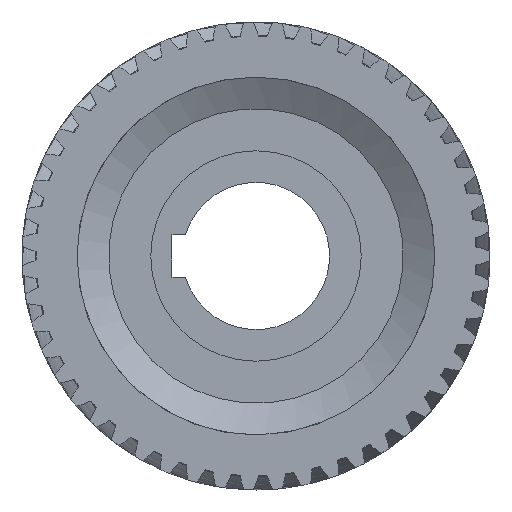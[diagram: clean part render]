
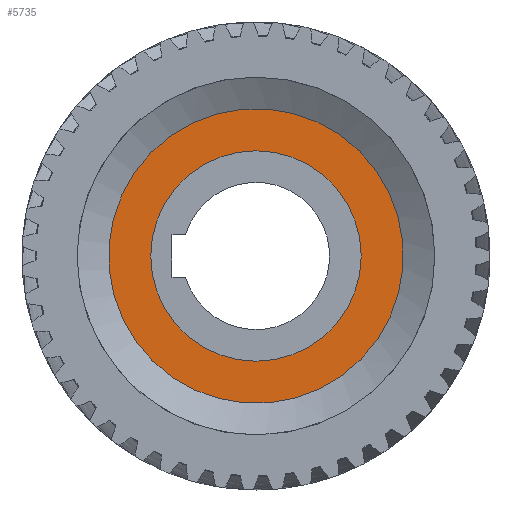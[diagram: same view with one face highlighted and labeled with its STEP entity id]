
A CAD part, left-side view. The second image highlights one B-rep face of the part: STEP entity #5735.
In plain terms, the highlighted planar face has unit normal (-1, 0, 0).
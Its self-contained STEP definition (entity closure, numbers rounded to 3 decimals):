
#518=FACE_BOUND('',#1293,.T.);
#527=PLANE('',#6496);
#966=FACE_OUTER_BOUND('',#1292,.T.);
#1292=EDGE_LOOP('',(#5411));
#1293=EDGE_LOOP('',(#5412));
#1326=CIRCLE('',#5760,70.);
#1330=CIRCLE('',#5765,50.);
#1950=VERTEX_POINT('',#8004);
#1954=VERTEX_POINT('',#8014);
#2581=EDGE_CURVE('',#1950,#1950,#1326,.T.);
#2587=EDGE_CURVE('',#1954,#1954,#1330,.T.);
#5411=ORIENTED_EDGE('',*,*,#2581,.T.);
#5412=ORIENTED_EDGE('',*,*,#2587,.T.);
#5735=ADVANCED_FACE('',(#966,#518),#527,.T.);
#5760=AXIS2_PLACEMENT_3D('',#8005,#6508,#6509);
#5765=AXIS2_PLACEMENT_3D('',#8016,#6520,#6521);
#6496=AXIS2_PLACEMENT_3D('',#120694,#7994,#7995);
#6508=DIRECTION('center_axis',(-1.,0.,0.));
#6509=DIRECTION('ref_axis',(0.,0.,-1.));
#6520=DIRECTION('center_axis',(1.,0.,0.));
#6521=DIRECTION('ref_axis',(0.,0.,
-1.));
#7994=DIRECTION('center_axis',(-1.,0.,0.));
#7995=DIRECTION('ref_axis',(0.,0.,1.));
#8004=CARTESIAN_POINT('',(15.,40.678,56.968));
#8005=CARTESIAN_POINT('Origin',(15.,0.,0.));
#8014=CARTESIAN_POINT('',(15.,0.,50.));
#8016=CARTESIAN_POINT('Origin',(15.,0.,0.));
#120694=CARTESIAN_POINT('Origin',(15.,70.001,0.));
